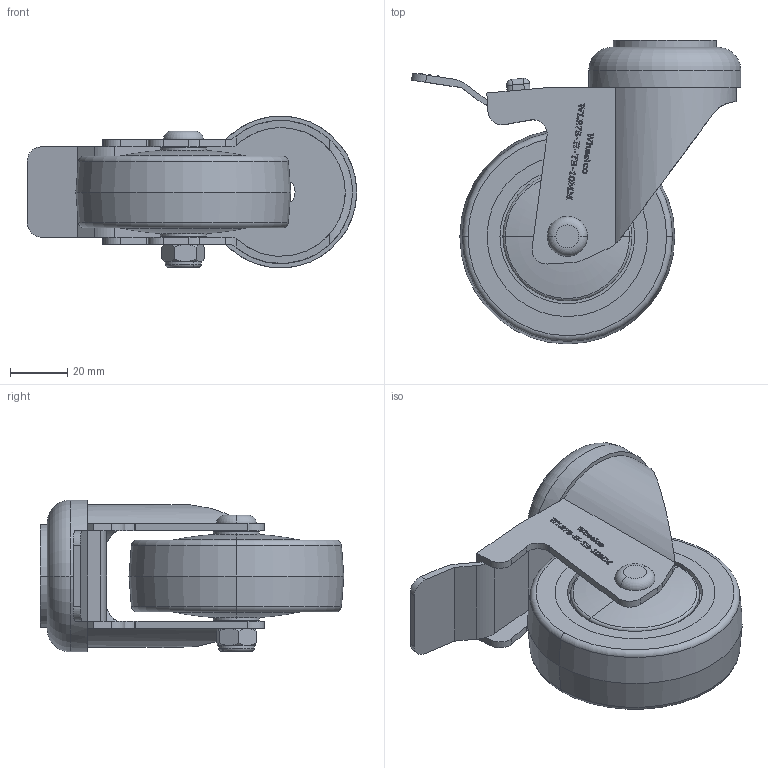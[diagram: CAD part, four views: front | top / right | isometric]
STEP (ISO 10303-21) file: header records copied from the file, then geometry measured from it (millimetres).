
FILE_DESCRIPTION (( 'STEP AP214' ), '1' );
FILE_NAME ('WLR75-H-TB-10MM.step', '2024-01-15T01:49:34', ( '' ), ( '' ), 'SwSTEP 2.0', 'SolidWorks 2022', '' );
FILE_SCHEMA (( 'AUTOMOTIVE_DESIGN' ));
Length unit declared in the file: millimetre
Products named in the file (5): WL bolt 50mm-8mm dia; M8Nyloc; WL75-H-TB-10MM; WLR75; WLR75-H-TB-10MM
Assembly tree (4 placements, depth 2):
  WLR75-H-TB-10MM
    WL bolt 50mm-8mm dia
    M8Nyloc
    WL75-H-TB-10MM
    WLR75
Bounding box: 114.95 x 106 x 53 mm (x, y, z)
Volume: 168011.1 mm3; surface area: 43453 mm2
Topology: 4 solids, 4 shells, 672 faces, 1820 edges, 1195 vertices
Faces by surface type: plane 385, cylinder 124, bspline 120, torus 18, cone 18, sphere 7
Entity records: 30397 total; most frequent: CARTESIAN_POINT 13957, ORIENTED_EDGE 3628, DIRECTION 2771, EDGE_CURVE 1814, LINE 1235, VECTOR 1235, VERTEX_POINT 1193, AXIS2_PLACEMENT_3D 768
